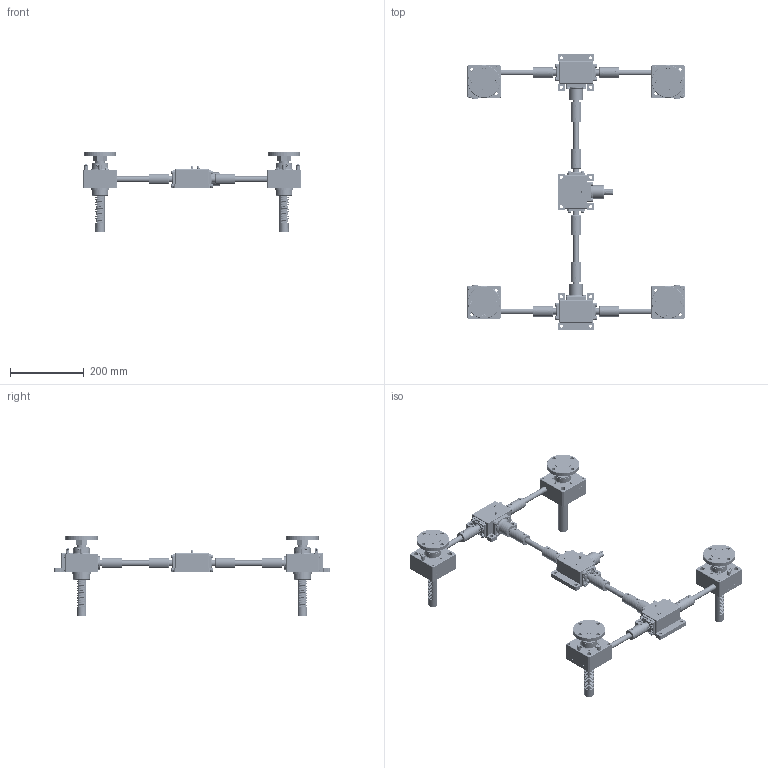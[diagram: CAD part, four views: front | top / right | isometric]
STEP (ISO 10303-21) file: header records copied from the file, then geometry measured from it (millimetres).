
FILE_DESCRIPTION(('STEP AP203'),'1');
FILE_NAME('SPMB500F-600x500-250-100ST.stp','2016-08-06T00:32:24',(' '),(' '),'Spatial InterOp 3D',' ',' ');
FILE_SCHEMA(('CONFIG_CONTROL_DESIGN'));
Length unit declared in the file: millimetre
Products named in the file (162): SPMB500F-600x500-250-100ST; Rack Gear(SP-500F); Flange.1-Part; Flange.1; Joint.1; Nut.1; Flange.2-Part; Flange.2; Joint.2; Nut.2; Flange.3-Part; Flange.3; Joint.3; Nut.3; Flange.4-Part; Flange.4; Joint.4; Nut.4; Body.1-Part; Bolt; Nipple; HoleCover; GearBox.1(Upper); GearBox.1(Lower); LowerGearBox.1; RJ05-4SCJ-610X600-100ST_CAP; LABEL-B.1; SUNIL __; 파트1; Body.2-Part; GearBox.2(Upper); GearBox.2(Lower); Symmetry of LowerGearBox.1.1; Body.3-Part; GearBox.3(Upper); GearBox.3(Lower); Symmetry of Symmetry of LowerGearBox.1.1.1; Body.4-Part; GearBox.4(Upper); GearBox.4(Lower)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
Assembly tree (165 placements, depth 6):
  SPMB500F-600x500-250-100ST
    Rack Gear(SP-500F)  x4
    Flange.1-Part
      Flange.1
      Joint.1
      Nut.1
    Flange.2-Part
      Flange.2
      Joint.2
      Nut.2
    Flange.3-Part
      Flange.3
      Joint.3
      Nut.3
    Flange.4-Part
      Flange.4
      Joint.4
      Nut.4
    Body.1-Part
      Bolt
      Bolt
      Bolt
      Bolt
      Bolt
      Nipple
      Nipple
      HoleCover
      GearBox.1(Upper)
      GearBox.1(Lower)
        LowerGearBox.1
      SUNIL __
        RJ05-4SCJ-610X600-100ST_CAP
          LABEL-B.1
        파트1
    Body.2-Part
      Bolt
      Bolt
      Bolt
      Bolt
      Bolt
      Nipple
      Nipple
      HoleCover
      GearBox.2(Upper)
      GearBox.2(Lower)
        Symmetry of LowerGearBox.1.1
      SUNIL __
        RJ05-4SCJ-610X600-100ST_CAP
          LABEL-B.1
        파트1
    Body.3-Part
      Bolt
      Bolt
      Bolt
      Bolt
      Bolt
      Nipple
      Nipple
      HoleCover
      GearBox.3(Upper)
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Bounding box: 590.4 x 749 x 220 mm (x, y, z)
Volume: 2942871.4 mm3; surface area: 993214.4 mm2
Topology: 182 solids, 182 shells, 15952 faces, 44768 edges, 29648 vertices
Faces by surface type: plane 14079, cylinder 1103, cone 375, revolution 189, extrusion 179, bspline 20, sphere 4, torus 3
Full cylindrical faces by diameter (mm): 3.113 x3, 4.8 x8, 6 x178, 6.6 x3, 7 x20, 8.5 x12, 9 x16, 9.5 x16, 9.886 x8, 10 x36, 10.5 x40, 13.5 x8, 15 x21, 17 x8, 18 x11, 22 x6, 23 x4, 25 x15, 26 x8, 27 x4, 28 x8, 28.3 x8, 29 x8, 29.5 x8, 30 x6, 34 x6, 35 x9, 36 x3, 37 x4, 38 x4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
Entity records: 500160 total; most frequent: CARTESIAN_POINT 98288, ORIENTED_EDGE 84268, DIRECTION 74652, EDGE_CURVE 42134, VECTOR 38531, LINE 38352, VERTEX_POINT 28448, AXIS2_PLACEMENT_3D 17966
